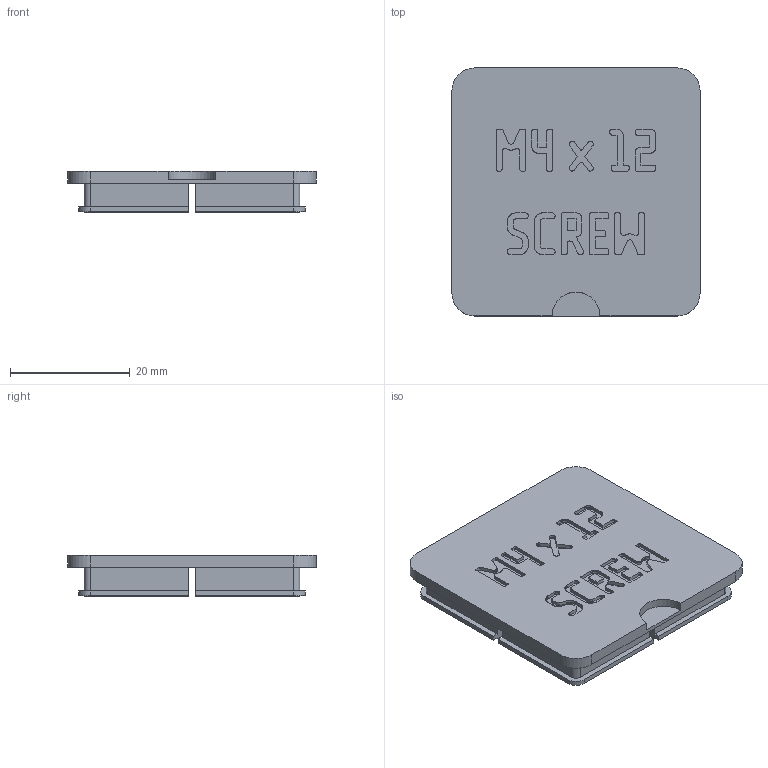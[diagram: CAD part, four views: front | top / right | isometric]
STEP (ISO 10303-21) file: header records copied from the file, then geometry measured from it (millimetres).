
FILE_DESCRIPTION(('Open CASCADE Model'),'2;1');
FILE_NAME('Open CASCADE Shape Model','2026-11-03T17:09:35',('Author'),( 'Open CASCADE'),'Open CASCADE STEP processor 8.0','build123d', 'Unknown');
FILE_SCHEMA(('AUTOMOTIVE_DESIGN { 1 0 10303 214 1 1 1 1 }'));
Products named in the file (1): COMPOUND
Bounding box: 41.5 x 41.5 x 6.9 mm (x, y, z)
Volume: 4185.2 mm3; surface area: 5542.8 mm2
Topology: 1 solids, 1 shells, 1174 faces, 3480 edges, 2320 vertices
Faces by surface type: plane 1153, cylinder 21
Entity records: 83648 total; most frequent: CARTESIAN_POINT 14291, DIRECTION 12636, LINE 10192, VECTOR 10192, ORIENTED_EDGE 6960, PCURVE 6960, DEFINITIONAL_REPRESENTATION 6960, EDGE_CURVE 3480
